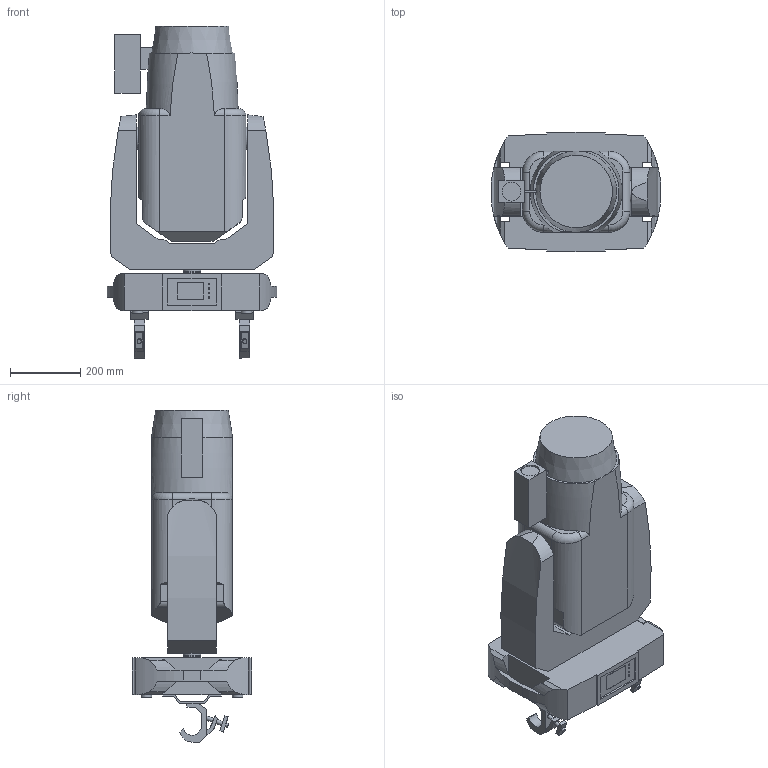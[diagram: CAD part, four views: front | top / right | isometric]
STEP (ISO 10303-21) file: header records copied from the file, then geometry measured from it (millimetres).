
FILE_DESCRIPTION(/* description */ ('Unknown'),/* implementation_level */ '2;1');
FILE_NAME(/* name */ '3D_BMFLspot_flw',/* time_stamp */ '2018-06-28T08:09:32+02:00',/* author */ ('Unknown'),/* organization */ ('Unknown'),/* preprocessor_version */ 'ST-DEVELOPER v16.7',/* originating_system */ 'DEX',/* authorisation */ $);
FILE_SCHEMA (('AUTOMOTIVE_DESIGN {1 0 10303 214 3 1 1}'));
Length unit declared in the file: millimetre
Products named in the file (7): 3D_BMFL_flw; BMFL_base; BMFL_arm; Omega_SlimClamp_00; Omega+SlimClamp; Clamp Doughty Slimline QT; BMFL_head_flw
Assembly tree (7 placements, depth 3):
  3D_BMFL_flw
    BMFL_base
    BMFL_arm
    Omega_SlimClamp_00  x2
      Omega+SlimClamp
      Clamp Doughty Slimline QT
    BMFL_head_flw
Bounding box: 482.55 x 339.31 x 944.82 mm (x, y, z)
Volume: 61982248.3 mm3; surface area: 1802039 mm2
Topology: 7 solids, 7 shells, 295 faces, 737 edges, 492 vertices
Faces by surface type: plane 208, cylinder 80, torus 6, cone 1
Full cylindrical faces by diameter (mm): 4.153 x4, 10 x10, 11 x4, 12 x8, 13 x2, 20.926 x6, 30 x4, 34 x2, 50 x2, 53.824 x1, 63 x1
Entity records: 7328 total; most frequent: CARTESIAN_POINT 1433, DIRECTION 1188, ORIENTED_EDGE 1110, EDGE_CURVE 555, AXIS2_PLACEMENT_3D 418, VERTEX_POINT 391, LINE 352, VECTOR 352
